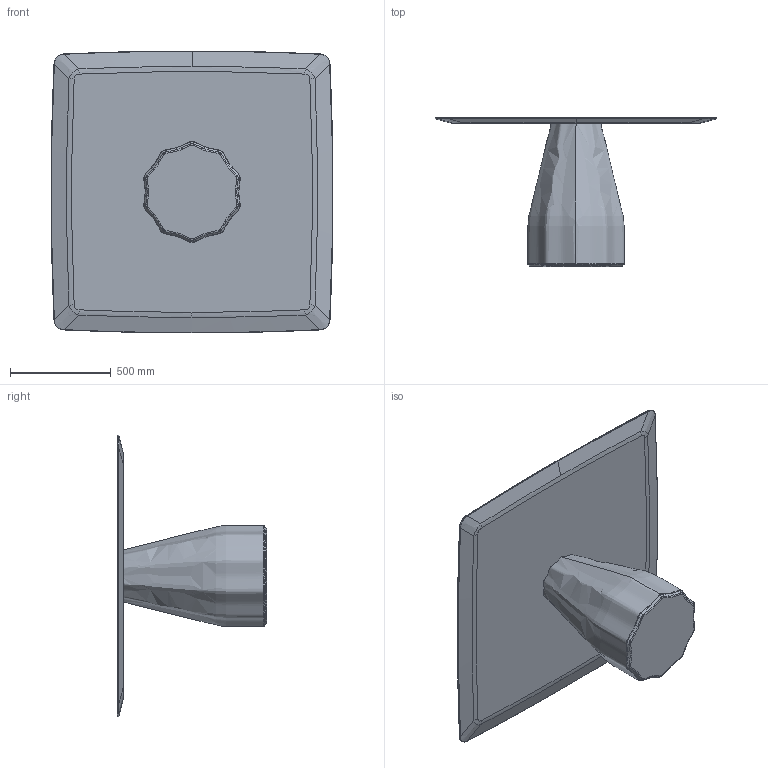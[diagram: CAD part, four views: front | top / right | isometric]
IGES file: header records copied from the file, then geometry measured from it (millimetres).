
Start section: SolidWorks IGES file using analytic representation for surfaces
Global section: file name: Z:\01-VICCARBE\VICCARBE TECNICO 2018\6.-Studio VCCB\Otros\Burin\Modelado\WEB\Nueva carpeta\BurinH74C140.IGS; native system: SolidWorks 2013; preprocessor: SolidWorks 2013; author: Usuario; date: 190219.125605; units: millimetre
Bounding box: 1399.17 x 740 x 1399.42 mm (x, y, z)
Volume: 145184966.2 mm3; surface area: 5045500.8 mm2
Topology: 2 solids, 2 shells, 179 faces, 451 edges, 276 vertices
Faces by surface type: bspline 142, revolution 33, plane 4
